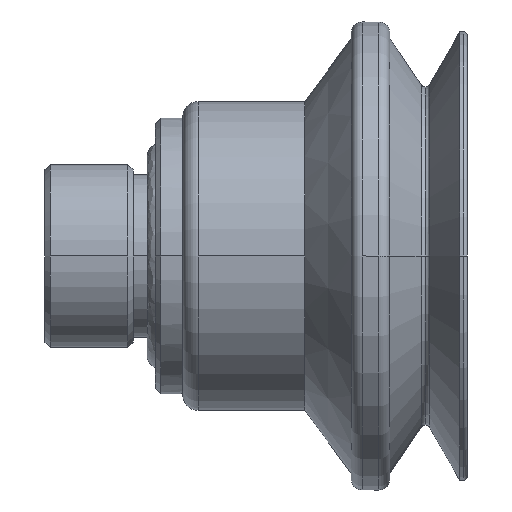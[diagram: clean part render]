
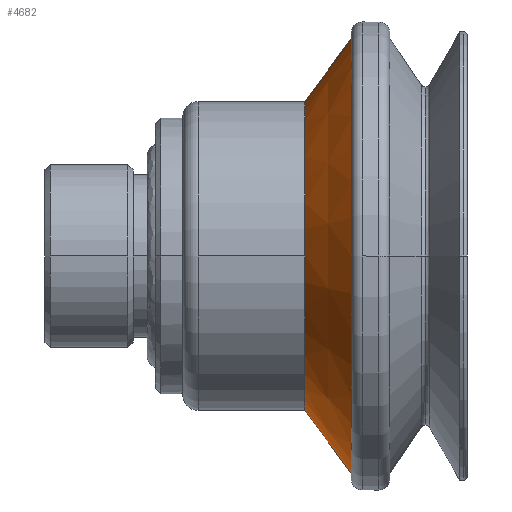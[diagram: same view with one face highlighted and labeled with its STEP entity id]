
A CAD part, left-side view. The second image highlights one B-rep face of the part: STEP entity #4682.
In plain terms, the highlighted conical face has half-angle 53.616 degrees and reference radius 19.7 mm.
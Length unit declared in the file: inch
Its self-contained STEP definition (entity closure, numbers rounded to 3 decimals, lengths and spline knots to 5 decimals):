
#36 = DIRECTION ( 'NONE',  ( 0., 1., 0. ) ) ;
#310 = DIRECTION ( 'NONE',  ( 0., 0.805, 0.593 ) ) ;
#502 = ORIENTED_EDGE ( 'NONE', *, *, #2177, .T. ) ;
#701 = DIRECTION ( 'NONE',  ( 0., 1., 0. ) ) ;
#1092 = VERTEX_POINT ( 'NONE', #2577 ) ;
#1292 = EDGE_CURVE ( 'NONE', #4047, #1092, #11574, .T. ) ;
#1663 = CONICAL_SURFACE ( 'NONE', #3384, 0.77559, 0.936 ) ;
#1725 = VERTEX_POINT ( 'NONE', #7046 ) ;
#1914 = CIRCLE ( 'NONE', #8074, 0.77559 ) ;
#2177 = EDGE_CURVE ( 'NONE', #1725, #11419, #4861, .T. ) ;
#2249 = CARTESIAN_POINT ( 'NONE',  ( -1.08268, 0., 0.41339 ) ) ;
#2275 = EDGE_CURVE ( 'NONE', #3374, #4047, #4131, .T. ) ;
#2418 = DIRECTION ( 'NONE',  ( 0., 0., 1. ) ) ;
#2577 = CARTESIAN_POINT ( 'NONE',  ( -1.63386, 0., 0.57874 ) ) ;
#2789 = ORIENTED_EDGE ( 'NONE', *, *, #9484, .F. ) ;
#2987 = DIRECTION ( 'NONE',  ( 0., 1., 0. ) ) ;
#3296 = CARTESIAN_POINT ( 'NONE',  ( -1.08268, -0.55118, 0.57874 ) ) ;
#3374 = VERTEX_POINT ( 'NONE', #10413 ) ;
#3384 = AXIS2_PLACEMENT_3D ( 'NONE', #2249, #9443, #10395 ) ;
#3570 = AXIS2_PLACEMENT_3D ( 'NONE', #9058, #2418, #701 ) ;
#3660 = AXIS2_PLACEMENT_3D ( 'NONE', #7585, #10290, #2987 ) ;
#3744 = DIRECTION ( 'NONE',  ( 0., 0., 1. ) ) ;
#4047 = VERTEX_POINT ( 'NONE', #11819 ) ;
#4131 = LINE ( 'NONE', #5958, #11511 ) ;
#4682 = ADVANCED_FACE ( 'NONE', ( #6728 ), #1663, .T. ) ;
#4700 = CARTESIAN_POINT ( 'NONE',  ( -1.08268, 0., 0.41339 ) ) ;
#4861 = LINE ( 'NONE', #10292, #9826 ) ;
#5098 = ORIENTED_EDGE ( 'NONE', *, *, #2275, .F. ) ;
#5264 = ORIENTED_EDGE ( 'NONE', *, *, #1292, .F. ) ;
#5958 = CARTESIAN_POINT ( 'NONE',  ( -1.08268, 0.55118, 0.57874 ) ) ;
#6034 = ORIENTED_EDGE ( 'NONE', *, *, #9356, .T. ) ;
#6728 = FACE_OUTER_BOUND ( 'NONE', #11642, .T. ) ;
#7046 = CARTESIAN_POINT ( 'NONE',  ( -1.08268, -0.77559, 0.41339 ) ) ;
#7585 = CARTESIAN_POINT ( 'NONE',  ( -1.08268, 0., 0.57874 ) ) ;
#8074 = AXIS2_PLACEMENT_3D ( 'NONE', #4700, #3744, #36 ) ;
#9058 = CARTESIAN_POINT ( 'NONE',  ( -1.08268, 0., 0.57874 ) ) ;
#9356 = EDGE_CURVE ( 'NONE', #3374, #1725, #1914, .T. ) ;
#9443 = DIRECTION ( 'NONE',  ( 0., 0., -1. ) ) ;
#9484 = EDGE_CURVE ( 'NONE', #1092, #11419, #10701, .T. ) ;
#9826 = VECTOR ( 'NONE', #310, 39.37008 ) ;
#10290 = DIRECTION ( 'NONE',  ( 0., 0., 1. ) ) ;
#10292 = CARTESIAN_POINT ( 'NONE',  ( -1.08268, -0.55118, 0.57874 ) ) ;
#10395 = DIRECTION ( 'NONE',  ( 1., 0., 0. ) ) ;
#10413 = CARTESIAN_POINT ( 'NONE',  ( -1.08268, 0.77559, 0.41339 ) ) ;
#10529 = DIRECTION ( 'NONE',  ( 0., -0.805, 0.593 ) ) ;
#10701 = CIRCLE ( 'NONE', #3570, 0.55118 ) ;
#11419 = VERTEX_POINT ( 'NONE', #3296 ) ;
#11511 = VECTOR ( 'NONE', #10529, 39.37008 ) ;
#11574 = CIRCLE ( 'NONE', #3660, 0.55118 ) ;
#11642 = EDGE_LOOP ( 'NONE', ( #5264, #5098, #6034, #502, #2789 ) ) ;
#11819 = CARTESIAN_POINT ( 'NONE',  ( -1.08268, 0.55118, 0.57874 ) ) ;
